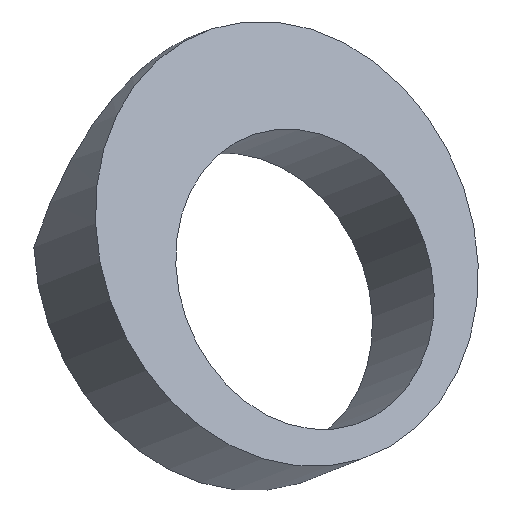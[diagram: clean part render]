
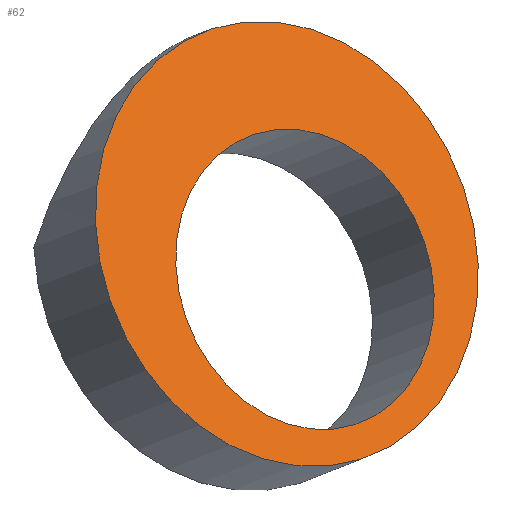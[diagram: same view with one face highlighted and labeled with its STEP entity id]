
A CAD part, isometric view. The second image highlights one B-rep face of the part: STEP entity #62.
In plain terms, the highlighted planar face has unit normal (0, -0.766, 0.643).
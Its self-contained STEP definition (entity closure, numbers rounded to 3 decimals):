
#62 = ADVANCED_FACE( '', ( #117, #118 ), #119, .T. );
#117 = FACE_BOUND( '', #165, .T. );
#118 = FACE_OUTER_BOUND( '', #166, .T. );
#119 = PLANE( '', #167 );
#165 = EDGE_LOOP( '', ( #209 ) );
#166 = EDGE_LOOP( '', ( #210 ) );
#167 = AXIS2_PLACEMENT_3D( '', #211, #212, #213 );
#209 = ORIENTED_EDGE( '', *, *, #248, .F. );
#210 = ORIENTED_EDGE( '', *, *, #259, .T. );
#211 = CARTESIAN_POINT( '', ( 8., -14.088, -5.783 ) );
#212 = DIRECTION( '', ( 0., -0.766, 0.643 ) );
#213 = DIRECTION( '', ( 0., -0.643, -0.766 ) );
#248 = EDGE_CURVE( '', #268, #268, #269, .T. );
#259 = EDGE_CURVE( '', #286, #286, #287, .T. );
#268 = VERTEX_POINT( '', #297 );
#269 = CIRCLE( '', #298, 13.5 );
#286 = VERTEX_POINT( '', #317 );
#287 = CIRCLE( '', #318, 20. );
#297 = CARTESIAN_POINT( '', ( 21.5, -16.338, -8.464 ) );
#298 = AXIS2_PLACEMENT_3D( '', #327, #328, #329 );
#317 = CARTESIAN_POINT( '', ( 28., -14.088, -5.783 ) );
#318 = AXIS2_PLACEMENT_3D( '', #347, #348, #349 );
#327 = CARTESIAN_POINT( '', ( 8., -16.338, -8.464 ) );
#328 = DIRECTION( '', ( 0., -0.766, 0.643 ) );
#329 = DIRECTION( '', ( 1., 0., 0. ) );
#347 = CARTESIAN_POINT( '', ( 8., -14.088, -5.783 ) );
#348 = DIRECTION( '', ( 0., -0.766, 0.643 ) );
#349 = DIRECTION( '', ( 1., 0., 0. ) );
